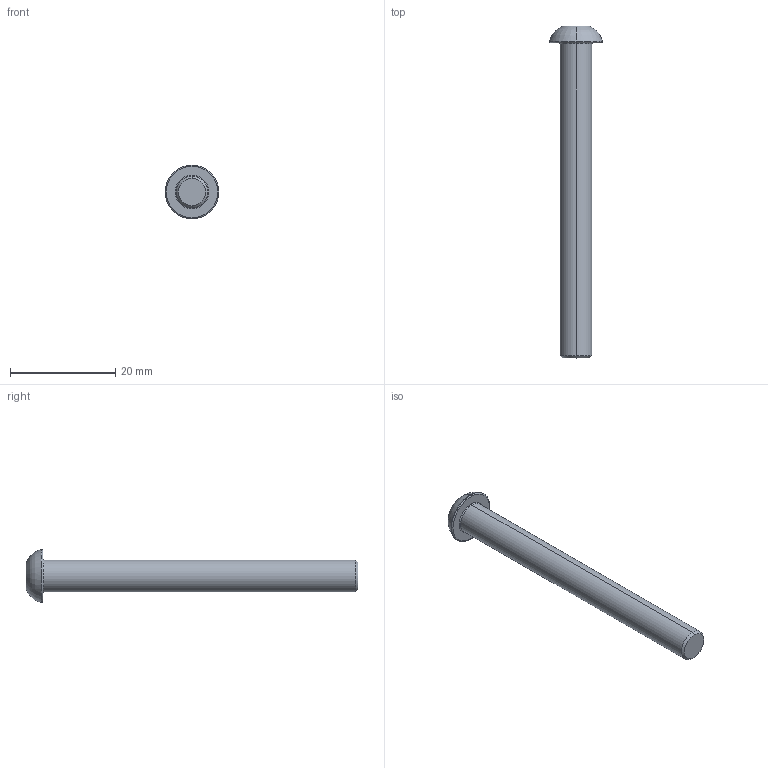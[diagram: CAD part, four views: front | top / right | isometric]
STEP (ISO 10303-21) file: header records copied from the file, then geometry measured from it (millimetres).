
FILE_DESCRIPTION (( 'STEP AP203' ), '1' );
FILE_NAME ('LGDD-304-M6x60.STEP', '2026-08-08T04:33:35', ( '' ), ( '' ), 'SwSTEP 2.0', 'SolidWorks 2020', '' );
FILE_SCHEMA (( 'CONFIG_CONTROL_DESIGN' ));
Length unit declared in the file: millimetre
Products named in the file (1): LGDD-304-M6x60
Bounding box: 10.2 x 63.2 x 10.2 mm (x, y, z)
Volume: 1845.9 mm3; surface area: 1372.6 mm2
Topology: 1 solids, 1 shells, 31 faces, 59 edges, 32 vertices
Faces by surface type: plane 10, cone 9, torus 8, cylinder 4
Entity records: 860 total; most frequent: CARTESIAN_POINT 150, DIRECTION 149, ORIENTED_EDGE 118, AXIS2_PLACEMENT_3D 65, EDGE_CURVE 59, CIRCLE 33, EDGE_LOOP 33, VERTEX_POINT 32
